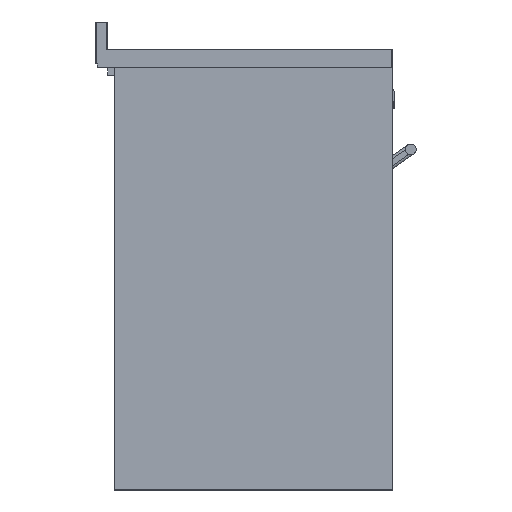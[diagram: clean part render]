
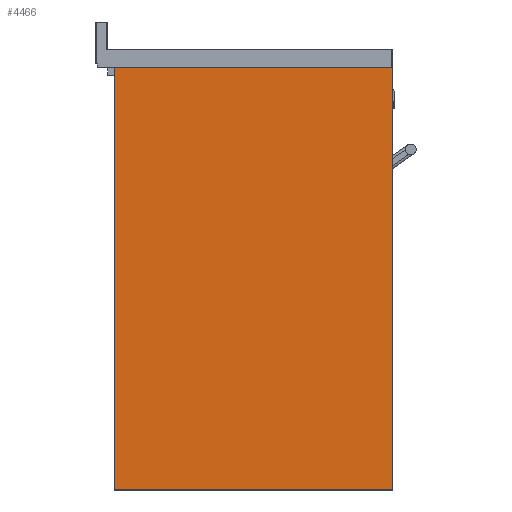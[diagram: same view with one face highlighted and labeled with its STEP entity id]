
A CAD part, left-side view. The second image highlights one B-rep face of the part: STEP entity #4466.
In plain terms, the highlighted planar face has unit normal (-1, 0, 0).
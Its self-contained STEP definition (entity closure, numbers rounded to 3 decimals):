
#4466=ADVANCED_FACE('',(#6681),#5331,.F.);
#5331=PLANE('',#30901);
#6681=FACE_OUTER_BOUND('',#8566,.T.);
#8566=EDGE_LOOP('',(#21317,#21318,#21319,#21320));
#10952=LINE('',#52801,#13706);
#10955=LINE('',#52807,#13709);
#10958=LINE('',#52813,#13712);
#10961=LINE('',#52818,#13715);
#13706=VECTOR('',#37992,1.);
#13709=VECTOR('',#37997,1.);
#13712=VECTOR('',#38002,1.);
#13715=VECTOR('',#38007,1.);
#21317=ORIENTED_EDGE('',*,*,#27923,.F.);
#21318=ORIENTED_EDGE('',*,*,#27932,.F.);
#21319=ORIENTED_EDGE('',*,*,#27929,.F.);
#21320=ORIENTED_EDGE('',*,*,#27926,.F.);
#24106=VERTEX_POINT('',#52800);
#24107=VERTEX_POINT('',#52802);
#24109=VERTEX_POINT('',#52808);
#24111=VERTEX_POINT('',#52814);
#27923=EDGE_CURVE('',#24106,#24107,#10952,.T.);
#27926=EDGE_CURVE('',#24107,#24109,#10955,.T.);
#27929=EDGE_CURVE('',#24109,#24111,#10958,.T.);
#27932=EDGE_CURVE('',#24111,#24106,#10961,.T.);
#30901=AXIS2_PLACEMENT_3D('',#52820,#38010,#38011);
#37992=DIRECTION('',(0.,1.,0.));
#37997=DIRECTION('',(0.,0.,1.));
#38002=DIRECTION('',(0.,-1.,0.));
#38007=DIRECTION('',(0.,0.,-1.));
#38010=DIRECTION('',(1.,0.,0.));
#38011=DIRECTION('',(0.,-1.,0.));
#52800=CARTESIAN_POINT('',(-114.934,-93.192,-11.445));
#52801=CARTESIAN_POINT('',(-114.934,-93.192,-11.445));
#52802=CARTESIAN_POINT('',(-114.934,471.808,-11.445));
#52807=CARTESIAN_POINT('',(-114.934,471.808,-11.445));
#52808=CARTESIAN_POINT('',(-114.934,471.808,846.555));
#52813=CARTESIAN_POINT('',(-114.934,471.808,846.555));
#52814=CARTESIAN_POINT('',(-114.934,-93.192,846.555));
#52818=CARTESIAN_POINT('',(-114.934,-93.192,846.555));
#52820=CARTESIAN_POINT('',(-114.934,471.808,-11.445));
